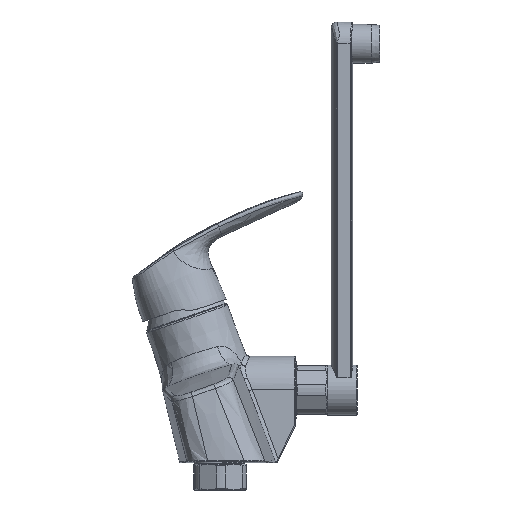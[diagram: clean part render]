
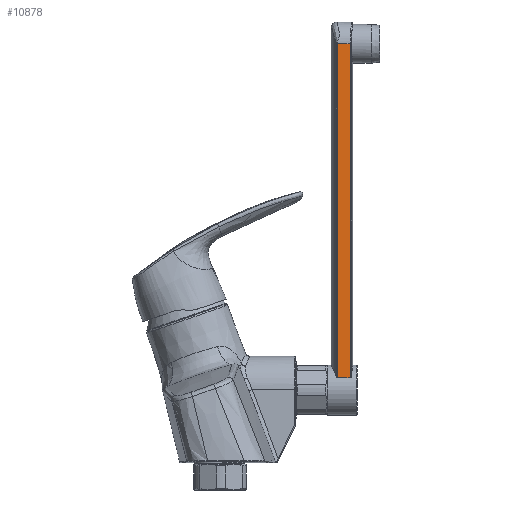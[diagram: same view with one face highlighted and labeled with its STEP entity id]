
A CAD part, left-side view. The second image highlights one B-rep face of the part: STEP entity #10878.
In plain terms, the highlighted planar face has unit normal (-1, 0, 0).
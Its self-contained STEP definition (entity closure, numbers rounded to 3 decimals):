
#384 = EDGE_LOOP ( 'NONE', ( #9003, #8651, #9612, #10347 ) ) ;
#2515 = EDGE_CURVE ( 'NONE', #15055, #16222, #5847, .T. ) ;
#2694 = CARTESIAN_POINT ( 'NONE',  ( -12.793, -68.388, 194.212 ) ) ;
#3049 = VERTEX_POINT ( 'NONE', #15881 ) ;
#3373 = EDGE_CURVE ( 'NONE', #12206, #16222, #17899, .T. ) ;
#4012 = CARTESIAN_POINT ( 'NONE',  ( -12.793, -75.838, 258.8 ) ) ;
#4174 = AXIS2_PLACEMENT_3D ( 'NONE', #7338, #4343, #14814 ) ;
#4343 = DIRECTION ( 'NONE',  ( -1., 0., 0. ) ) ;
#4592 = EDGE_CURVE ( 'NONE', #15055, #3049, #7661, .T. ) ;
#5364 = VECTOR ( 'NONE', #10530, 1000. ) ;
#5847 = LINE ( 'NONE', #7974, #5364 ) ;
#5920 = EDGE_CURVE ( 'NONE', #12206, #3049, #7429, .T. ) ;
#6718 = FACE_OUTER_BOUND ( 'NONE', #384, .T. ) ;
#7287 = CARTESIAN_POINT ( 'NONE',  ( -12.793, -68.388, 65.037 ) ) ;
#7338 = CARTESIAN_POINT ( 'NONE',  ( -12.793, -67.969, 271.45 ) ) ;
#7429 = LINE ( 'NONE', #16984, #14866 ) ;
#7492 = VECTOR ( 'NONE', #7619, 1000. ) ;
#7619 = DIRECTION ( 'NONE',  ( 0., 0., 1. ) ) ;
#7661 = B_SPLINE_CURVE_WITH_KNOTS ( 'NONE', 3,
 ( #13254, #2694, #16114, #7287 ),
 .UNSPECIFIED., .F., .F.,
 ( 4, 4 ),
 ( 0., 0.659 ),
 .UNSPECIFIED. ) ;
#7974 = CARTESIAN_POINT ( 'NONE',  ( -12.793, 90.934, 258.8 ) ) ;
#8651 = ORIENTED_EDGE ( 'NONE', *, *, #3373, .T. ) ;
#9003 = ORIENTED_EDGE ( 'NONE', *, *, #5920, .F. ) ;
#9612 = ORIENTED_EDGE ( 'NONE', *, *, #2515, .F. ) ;
#10347 = ORIENTED_EDGE ( 'NONE', *, *, #4592, .T. ) ;
#10530 = DIRECTION ( 'NONE',  ( 0., -1., 0. ) ) ;
#10878 = ADVANCED_FACE ( 'NONE', ( #6718 ), #17574, .T. ) ;
#12013 = CARTESIAN_POINT ( 'NONE',  ( -12.793, -75.838, 65.037 ) ) ;
#12206 = VERTEX_POINT ( 'NONE', #12013 ) ;
#13254 = CARTESIAN_POINT ( 'NONE',  ( -12.793, -68.388, 258.8 ) ) ;
#14814 = DIRECTION ( 'NONE',  ( 0., 1., 0. ) ) ;
#14866 = VECTOR ( 'NONE', #15525, 1000. ) ;
#15055 = VERTEX_POINT ( 'NONE', #17116 ) ;
#15525 = DIRECTION ( 'NONE',  ( 0., 1., 0. ) ) ;
#15881 = CARTESIAN_POINT ( 'NONE',  ( -12.793, -68.388, 65.037 ) ) ;
#16114 = CARTESIAN_POINT ( 'NONE',  ( -12.793, -68.388, 129.625 ) ) ;
#16222 = VERTEX_POINT ( 'NONE', #4012 ) ;
#16984 = CARTESIAN_POINT ( 'NONE',  ( -12.793, -48.766, 65.037 ) ) ;
#17116 = CARTESIAN_POINT ( 'NONE',  ( -12.793, -68.388, 258.8 ) ) ;
#17574 = PLANE ( 'NONE',  #4174 ) ;
#17842 = CARTESIAN_POINT ( 'NONE',  ( -12.793, -75.838, 271.45 ) ) ;
#17899 = LINE ( 'NONE', #17842, #7492 ) ;
